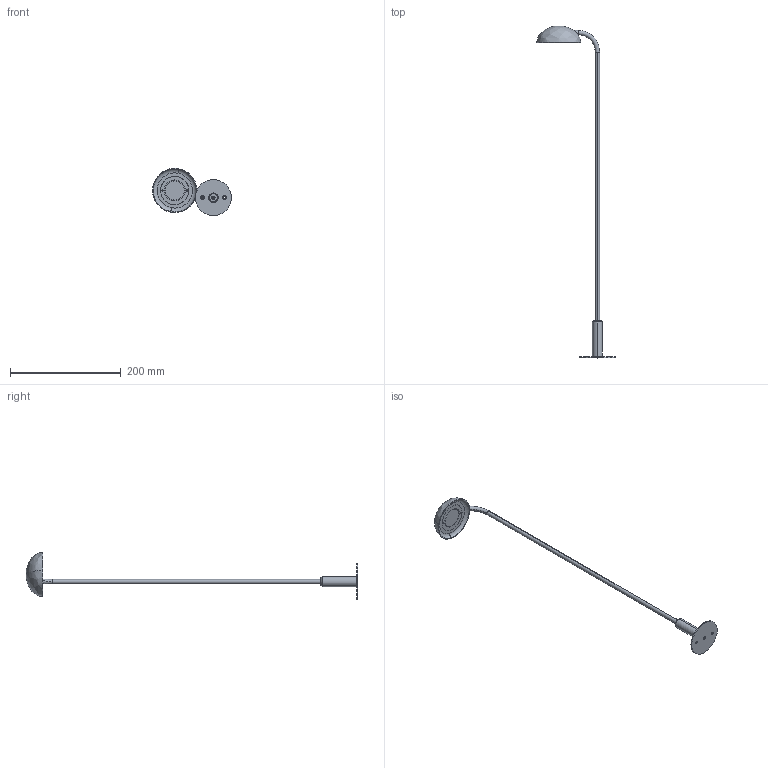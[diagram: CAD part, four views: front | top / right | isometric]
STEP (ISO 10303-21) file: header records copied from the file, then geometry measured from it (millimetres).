
FILE_DESCRIPTION (( 'STEP AP203' ), '1' );
FILE_NAME ('3D per sito_Mirtilla 600mm.STEP', '2026-02-04T15:52:12', ( '' ), ( '' ), 'SwSTEP 2.0', 'SolidWorks 2016', '' );
FILE_SCHEMA (( 'CONFIG_CONTROL_DESIGN' ));
Length unit declared in the file: millimetre
Products named in the file (7): Schermo mirtilla; Tubo Mirtilla 60; Ghiera; basetta P-M_; supporto cilindrico P-M_; 3D per sito_Mirtilla 600mm; Calotta
Assembly tree (6 placements, depth 2):
  3D per sito_Mirtilla 600mm
    basetta P-M_
    supporto cilindrico P-M_
    Tubo Mirtilla 60
    Calotta
    Ghiera
    Schermo mirtilla
Bounding box: 142.4 x 599.87 x 85.46 mm (x, y, z)
Volume: 113069.7 mm3; surface area: 57995.4 mm2
Topology: 6 solids, 6 shells, 119 faces, 268 edges, 168 vertices
Faces by surface type: cylinder 58, plane 27, cone 16, torus 10, bspline 8
Entity records: 7653 total; most frequent: CARTESIAN_POINT 4203, DIRECTION 622, ORIENTED_EDGE 524, AXIS2_PLACEMENT_3D 270, EDGE_CURVE 262, VERTEX_POINT 168, CIRCLE 150, EDGE_LOOP 148
